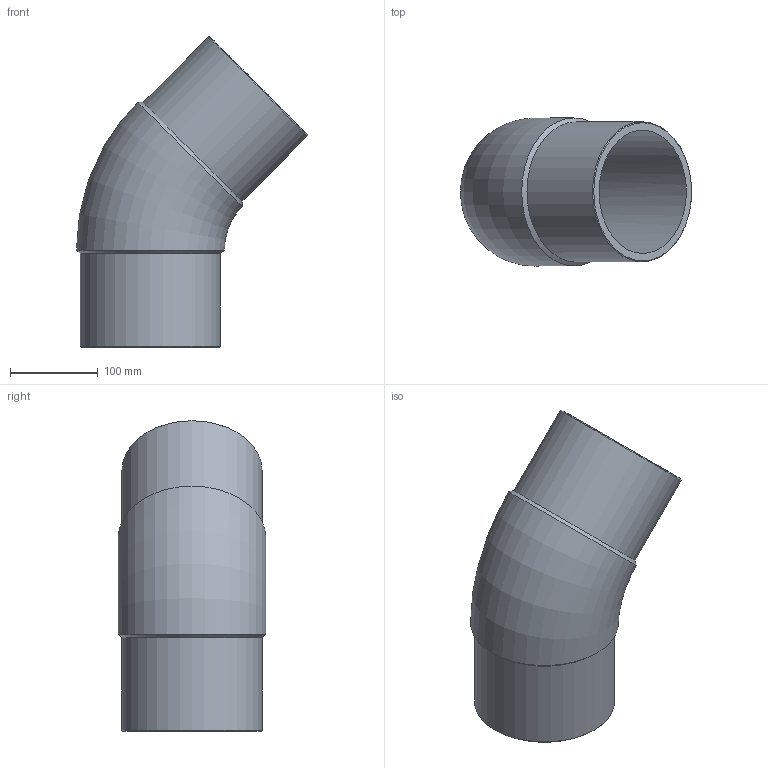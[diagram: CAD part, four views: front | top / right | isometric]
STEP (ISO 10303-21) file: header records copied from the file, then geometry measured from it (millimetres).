
FILE_DESCRIPTION(/* description */ ('Unknown'),/* implementation_level */ '2;1');
FILE_NAME(/* name */ 'G4P160B',/* time_stamp */ '2022-01-21T15:11:27+01:00',/* author */ ('Unknown'),/* organization */ ('Unknown'),/* preprocessor_version */ 'ST-DEVELOPER v18.1',/* originating_system */ 'Solid Edge',/* authorisation */ 'Unknown');
FILE_SCHEMA (('AUTOMOTIVE_DESIGN {1 0 10303 214 3 1 1}'));
Length unit declared in the file: millimetre
Products named in the file (1): G4P160B
Bounding box: 264.11 x 169 x 354.61 mm (x, y, z)
Volume: 1863684.6 mm3; surface area: 338721.7 mm2
Topology: 1 solids, 1 shells, 12 faces, 30 edges, 20 vertices
Faces by surface type: cone 4, cylinder 4, plane 2, torus 2
Full cylindrical faces by diameter (mm): 141 x2, 160 x2
Entity records: 328 total; most frequent: CARTESIAN_POINT 62, DIRECTION 52, ORIENTED_EDGE 34, AXIS2_PLACEMENT_3D 26, EDGE_LOOP 23, FACE_BOUND 23, EDGE_CURVE 17, VERTEX_POINT 16
